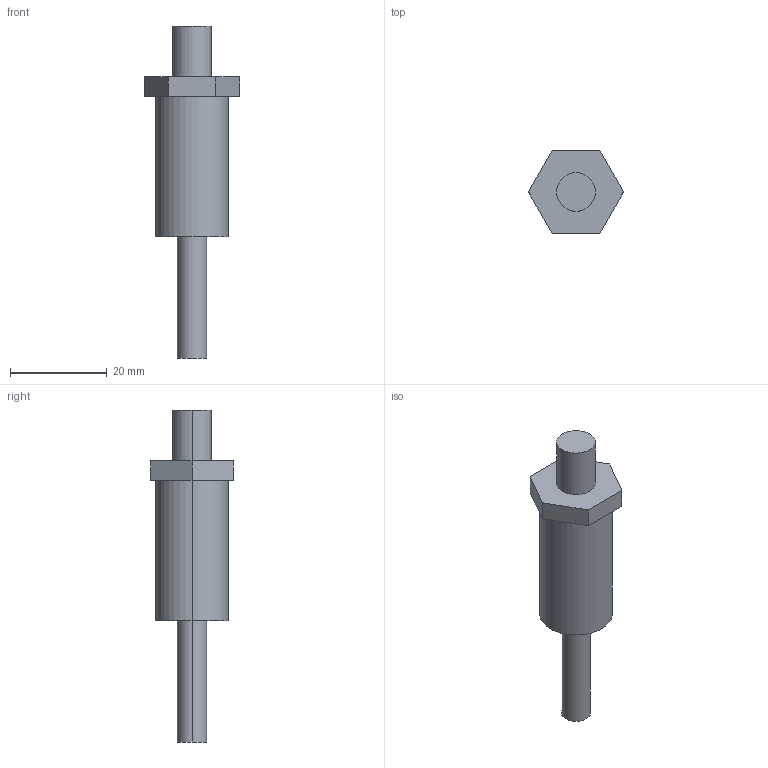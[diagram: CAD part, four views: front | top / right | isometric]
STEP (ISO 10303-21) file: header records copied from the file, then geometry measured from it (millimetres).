
FILE_DESCRIPTION (( 'STEP AP203' ), '1' );
FILE_NAME ('chuanganqi.STEP', '2023-04-06T07:03:16', ( '' ), ( '' ), 'SwSTEP 2.0', 'SolidWorks 2016', '' );
FILE_SCHEMA (( 'CONFIG_CONTROL_DESIGN' ));
Length unit declared in the file: millimetre
Products named in the file (1): chuanganqi
Bounding box: 19.63 x 17 x 68.5 mm (x, y, z)
Volume: 7360.5 mm3; surface area: 2837.8 mm2
Topology: 1 solids, 1 shells, 17 faces, 36 edges, 24 vertices
Faces by surface type: plane 11, cylinder 6
Entity records: 539 total; most frequent: DIRECTION 84, CARTESIAN_POINT 78, ORIENTED_EDGE 72, EDGE_CURVE 36, AXIS2_PLACEMENT_3D 30, VECTOR 24, LINE 24, VERTEX_POINT 24
